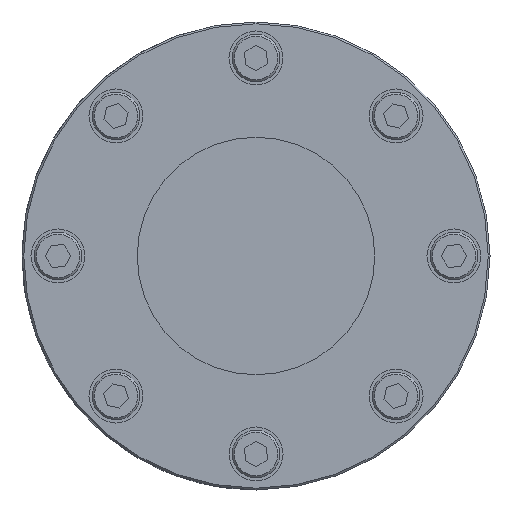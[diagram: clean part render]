
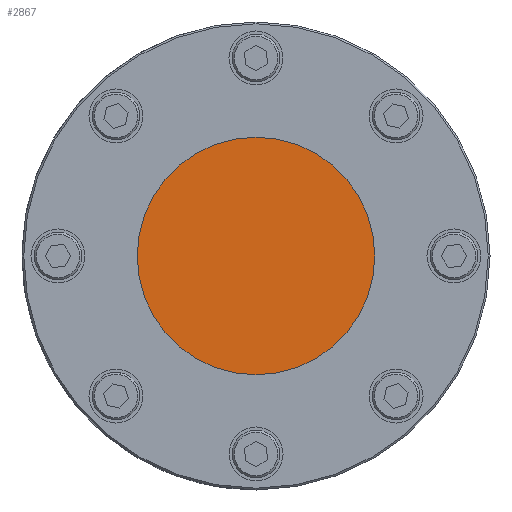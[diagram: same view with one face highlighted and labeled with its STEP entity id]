
A CAD part, front view. The second image highlights one B-rep face of the part: STEP entity #2867.
In plain terms, the highlighted planar face has unit normal (0, -1, 0).
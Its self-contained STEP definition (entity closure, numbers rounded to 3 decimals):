
#395 = CARTESIAN_POINT ( 'NONE',  ( 0., 0., 42.45 ) ) ;
#427 = DIRECTION ( 'NONE',  ( 0., -1., 0. ) ) ;
#431 = DIRECTION ( 'NONE',  ( 0., 0., 1. ) ) ;
#727 = CIRCLE ( 'NONE', #3757, 42.45 ) ;
#759 = DIRECTION ( 'NONE',  ( 0., 0., 1. ) ) ;
#1089 = DIRECTION ( 'NONE',  ( 0., 1., 0. ) ) ;
#1549 = CARTESIAN_POINT ( 'NONE',  ( 0., 0., 0. ) ) ;
#1558 = CIRCLE ( 'NONE', #4212, 42.45 ) ;
#1799 = FACE_OUTER_BOUND ( 'NONE', #1973, .T. ) ;
#1973 = EDGE_LOOP ( 'NONE', ( #2528, #3311 ) ) ;
#2035 = EDGE_CURVE ( 'NONE', #3305, #3345, #1558, .T. ) ;
#2105 = PLANE ( 'NONE',  #4274 ) ;
#2201 = DIRECTION ( 'NONE',  ( 0., 0., 1. ) ) ;
#2450 = CARTESIAN_POINT ( 'NONE',  ( 0., 0., 0. ) ) ;
#2528 = ORIENTED_EDGE ( 'NONE', *, *, #3479, .T. ) ;
#2867 = ADVANCED_FACE ( 'NONE', ( #1799 ), #2105, .F. ) ;
#3033 = CARTESIAN_POINT ( 'NONE',  ( 0., 0., -42.45 ) ) ;
#3305 = VERTEX_POINT ( 'NONE', #3033 ) ;
#3311 = ORIENTED_EDGE ( 'NONE', *, *, #2035, .T. ) ;
#3345 = VERTEX_POINT ( 'NONE', #395 ) ;
#3479 = EDGE_CURVE ( 'NONE', #3345, #3305, #727, .T. ) ;
#3757 = AXIS2_PLACEMENT_3D ( 'NONE', #2450, #427, #759 ) ;
#3840 = DIRECTION ( 'NONE',  ( 0., -1., 0. ) ) ;
#4083 = CARTESIAN_POINT ( 'NONE',  ( 0., 0., 0. ) ) ;
#4212 = AXIS2_PLACEMENT_3D ( 'NONE', #1549, #3840, #2201 ) ;
#4274 = AXIS2_PLACEMENT_3D ( 'NONE', #4083, #1089, #431 ) ;
